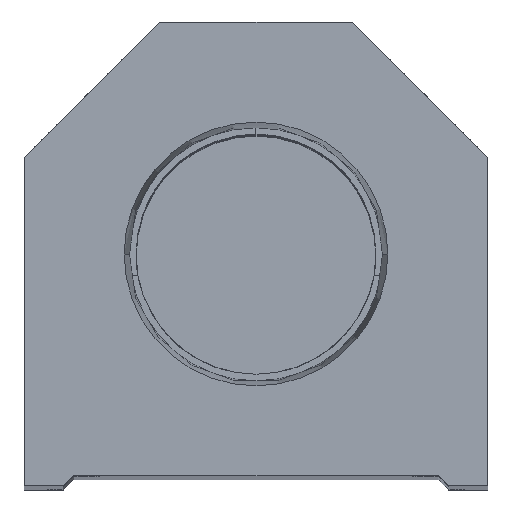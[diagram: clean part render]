
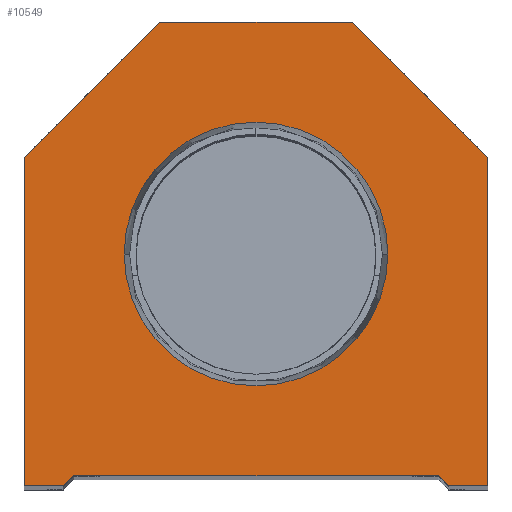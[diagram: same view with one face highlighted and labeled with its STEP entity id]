
A CAD part, top view. The second image highlights one B-rep face of the part: STEP entity #10549.
In plain terms, the highlighted planar face has unit normal (0, 0, 1).
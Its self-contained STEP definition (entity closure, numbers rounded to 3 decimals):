
#314 = LINE ( 'NONE', #9615, #26719 ) ;
#399 = EDGE_CURVE ( 'NONE', #5859, #1935, #9869, .T. ) ;
#658 = DIRECTION ( 'NONE',  ( 0., 1., 0. ) ) ;
#676 = CARTESIAN_POINT ( 'NONE',  ( -17.5, 0., 0. ) ) ;
#720 = DIRECTION ( 'NONE',  ( 0., 0., 1. ) ) ;
#887 = ORIENTED_EDGE ( 'NONE', *, *, #4422, .T. ) ;
#902 = CARTESIAN_POINT ( 'NONE',  ( -22.25, 31.5, 0. ) ) ;
#1398 = LINE ( 'NONE', #19742, #10616 ) ;
#1935 = VERTEX_POINT ( 'NONE', #19074 ) ;
#2020 = EDGE_LOOP ( 'NONE', ( #25757, #23483 ) ) ;
#2125 = ORIENTED_EDGE ( 'NONE', *, *, #24526, .T. ) ;
#2220 = ORIENTED_EDGE ( 'NONE', *, *, #399, .T. ) ;
#2336 = AXIS2_PLACEMENT_3D ( 'NONE', #5247, #5101, #14228 ) ;
#2826 = LINE ( 'NONE', #9827, #29105 ) ;
#2900 = PLANE ( 'NONE',  #23905 ) ;
#3619 = VECTOR ( 'NONE', #18049, 1000. ) ;
#3731 = LINE ( 'NONE', #10735, #6510 ) ;
#4029 = DIRECTION ( 'NONE',  ( 0., 0., 1. ) ) ;
#4166 = EDGE_CURVE ( 'NONE', #16847, #5476, #3731, .T. ) ;
#4422 = EDGE_CURVE ( 'NONE', #28473, #5859, #6282, .T. ) ;
#4946 = LINE ( 'NONE', #7673, #10617 ) ;
#5101 = DIRECTION ( 'NONE',  ( 0., 0., 1. ) ) ;
#5188 = FACE_OUTER_BOUND ( 'NONE', #26137, .T. ) ;
#5247 = CARTESIAN_POINT ( 'NONE',  ( 0., 22.25, 0. ) ) ;
#5476 = VERTEX_POINT ( 'NONE', #902 ) ;
#5534 = VERTEX_POINT ( 'NONE', #6251 ) ;
#5836 = VERTEX_POINT ( 'NONE', #15194 ) ;
#5859 = VERTEX_POINT ( 'NONE', #24583 ) ;
#5968 = CARTESIAN_POINT ( 'NONE',  ( -12.647, 22.25, 0. ) ) ;
#6251 = CARTESIAN_POINT ( 'NONE',  ( 22.25, 31.5, 0. ) ) ;
#6282 = LINE ( 'NONE', #11007, #3619 ) ;
#6510 = VECTOR ( 'NONE', #15600, 1000. ) ;
#6864 = CARTESIAN_POINT ( 'NONE',  ( 9.25, 44.5, 0. ) ) ;
#7042 = ORIENTED_EDGE ( 'NONE', *, *, #19133, .T. ) ;
#7221 = VERTEX_POINT ( 'NONE', #11180 ) ;
#7304 = EDGE_CURVE ( 'NONE', #21305, #7503, #29182, .T. ) ;
#7503 = VERTEX_POINT ( 'NONE', #5968 ) ;
#7673 = CARTESIAN_POINT ( 'NONE',  ( 22.25, 31.5, 0. ) ) ;
#8531 = LINE ( 'NONE', #29519, #12486 ) ;
#9127 = AXIS2_PLACEMENT_3D ( 'NONE', #15587, #4029, #22676 ) ;
#9333 = ORIENTED_EDGE ( 'NONE', *, *, #21560, .T. ) ;
#9503 = DIRECTION ( 'NONE',  ( -0.707, 0.707, 0. ) ) ;
#9615 = CARTESIAN_POINT ( 'NONE',  ( -17.5, 1., 0. ) ) ;
#9646 = CARTESIAN_POINT ( 'NONE',  ( 12.647, 22.25, 0. ) ) ;
#9794 = CARTESIAN_POINT ( 'NONE',  ( 17.5, 1., 0. ) ) ;
#9827 = CARTESIAN_POINT ( 'NONE',  ( 22.25, 0., 0. ) ) ;
#9869 = LINE ( 'NONE', #12030, #25544 ) ;
#10549 = ADVANCED_FACE ( 'NONE', ( #16746, #5188 ), #2900, .T. ) ;
#10616 = VECTOR ( 'NONE', #14974, 1000. ) ;
#10617 = VECTOR ( 'NONE', #9503, 1000. ) ;
#10735 = CARTESIAN_POINT ( 'NONE',  ( -22.25, 31.5, 0. ) ) ;
#11007 = CARTESIAN_POINT ( 'NONE',  ( 9.25, 9.25, 0. ) ) ;
#11180 = CARTESIAN_POINT ( 'NONE',  ( 9.25, 44.5, 0. ) ) ;
#11757 = LINE ( 'NONE', #6864, #26445 ) ;
#12030 = CARTESIAN_POINT ( 'NONE',  ( 17.5, 0., 0. ) ) ;
#12208 = CARTESIAN_POINT ( 'NONE',  ( 0., 0., 0. ) ) ;
#12486 = VECTOR ( 'NONE', #22459, 1000. ) ;
#12984 = EDGE_CURVE ( 'NONE', #1935, #5534, #2826, .T. ) ;
#13443 = CARTESIAN_POINT ( 'NONE',  ( -18.5, 0., 0. ) ) ;
#14228 = DIRECTION ( 'NONE',  ( 1., 0., 0. ) ) ;
#14945 = EDGE_CURVE ( 'NONE', #5534, #7221, #4946, .T. ) ;
#14974 = DIRECTION ( 'NONE',  ( 0., -1., 0. ) ) ;
#15194 = CARTESIAN_POINT ( 'NONE',  ( -22.25, 0., 0. ) ) ;
#15587 = CARTESIAN_POINT ( 'NONE',  ( 0., 22.25, 0. ) ) ;
#15600 = DIRECTION ( 'NONE',  ( -0.707, -0.707, 0. ) ) ;
#15716 = EDGE_CURVE ( 'NONE', #7503, #21305, #18420, .T. ) ;
#16133 = ORIENTED_EDGE ( 'NONE', *, *, #14945, .T. ) ;
#16430 = ORIENTED_EDGE ( 'NONE', *, *, #26960, .T. ) ;
#16746 = FACE_BOUND ( 'NONE', #2020, .T. ) ;
#16775 = DIRECTION ( 'NONE',  ( 1., 0., 0. ) ) ;
#16822 = VERTEX_POINT ( 'NONE', #20173 ) ;
#16847 = VERTEX_POINT ( 'NONE', #21086 ) ;
#18049 = DIRECTION ( 'NONE',  ( 0.707, -0.707, 0. ) ) ;
#18420 = CIRCLE ( 'NONE', #2336, 12.647 ) ;
#19074 = CARTESIAN_POINT ( 'NONE',  ( 22.25, 0., 0. ) ) ;
#19133 = EDGE_CURVE ( 'NONE', #5836, #23568, #19771, .T. ) ;
#19237 = ORIENTED_EDGE ( 'NONE', *, *, #12984, .T. ) ;
#19742 = CARTESIAN_POINT ( 'NONE',  ( -22.25, 0., 0. ) ) ;
#19771 = LINE ( 'NONE', #676, #26951 ) ;
#20173 = CARTESIAN_POINT ( 'NONE',  ( -17.5, 1., 0. ) ) ;
#20336 = ORIENTED_EDGE ( 'NONE', *, *, #4166, .T. ) ;
#21086 = CARTESIAN_POINT ( 'NONE',  ( -9.25, 44.5, 0. ) ) ;
#21305 = VERTEX_POINT ( 'NONE', #9646 ) ;
#21533 = DIRECTION ( 'NONE',  ( 1., 0., 0. ) ) ;
#21560 = EDGE_CURVE ( 'NONE', #23568, #16822, #8531, .T. ) ;
#22080 = EDGE_CURVE ( 'NONE', #16822, #28473, #314, .T. ) ;
#22459 = DIRECTION ( 'NONE',  ( 0.707, 0.707, 0. ) ) ;
#22676 = DIRECTION ( 'NONE',  ( 1., 0., 0. ) ) ;
#23091 = DIRECTION ( 'NONE',  ( -1., 0., 0. ) ) ;
#23483 = ORIENTED_EDGE ( 'NONE', *, *, #15716, .F. ) ;
#23568 = VERTEX_POINT ( 'NONE', #13443 ) ;
#23905 = AXIS2_PLACEMENT_3D ( 'NONE', #12208, #720, #21533 ) ;
#24526 = EDGE_CURVE ( 'NONE', #5476, #5836, #1398, .T. ) ;
#24583 = CARTESIAN_POINT ( 'NONE',  ( 18.5, 0., 0. ) ) ;
#25544 = VECTOR ( 'NONE', #28886, 1000. ) ;
#25757 = ORIENTED_EDGE ( 'NONE', *, *, #7304, .F. ) ;
#26137 = EDGE_LOOP ( 'NONE', ( #7042, #9333, #29219, #887, #2220, #19237, #16133, #16430, #20336, #2125 ) ) ;
#26445 = VECTOR ( 'NONE', #23091, 1000. ) ;
#26551 = DIRECTION ( 'NONE',  ( 1., 0., 0. ) ) ;
#26719 = VECTOR ( 'NONE', #16775, 1000. ) ;
#26951 = VECTOR ( 'NONE', #26551, 1000. ) ;
#26960 = EDGE_CURVE ( 'NONE', #7221, #16847, #11757, .T. ) ;
#28473 = VERTEX_POINT ( 'NONE', #9794 ) ;
#28886 = DIRECTION ( 'NONE',  ( 1., 0., 0. ) ) ;
#29105 = VECTOR ( 'NONE', #658, 1000. ) ;
#29182 = CIRCLE ( 'NONE', #9127, 12.647 ) ;
#29219 = ORIENTED_EDGE ( 'NONE', *, *, #22080, .T. ) ;
#29519 = CARTESIAN_POINT ( 'NONE',  ( -9.25, 9.25, 0. ) ) ;
